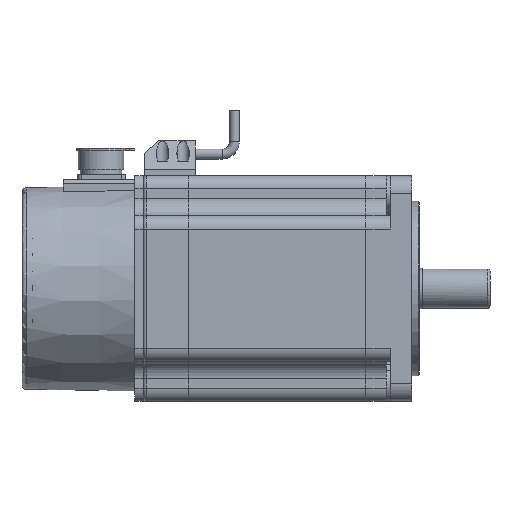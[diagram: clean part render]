
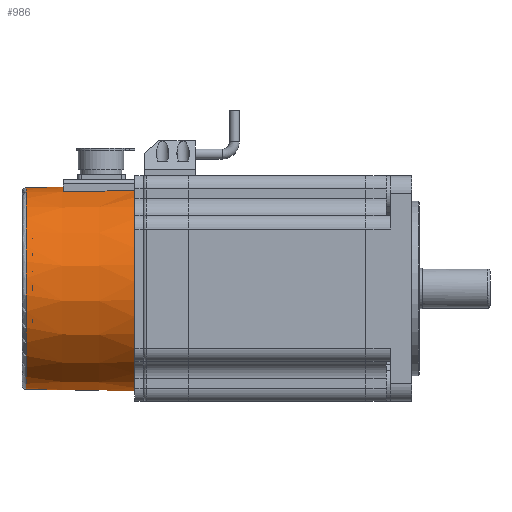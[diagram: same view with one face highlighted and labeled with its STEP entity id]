
A CAD part, left-side view. The second image highlights one B-rep face of the part: STEP entity #986.
In plain terms, the highlighted conical face has half-angle 1 degrees and reference radius 50 mm.
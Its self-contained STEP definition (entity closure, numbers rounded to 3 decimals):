
#56=CONICAL_SURFACE('',#10978,50.,1.);
#360=B_SPLINE_CURVE_WITH_KNOTS('',3,(#16449,#16450,#16451,#16452),
 .UNSPECIFIED.,.F.,.F.,(4,4),(0.,1.),.UNSPECIFIED.);
#361=B_SPLINE_CURVE_WITH_KNOTS('',3,(#16456,#16457,#16458,#16459),
 .UNSPECIFIED.,.F.,.F.,(4,4),(0.,1.),.UNSPECIFIED.);
#584=FACE_BOUND('',#2507,.T.);
#585=FACE_BOUND('',#2508,.T.);
#986=ADVANCED_FACE('',(#584,#585),#56,.T.);
#2507=EDGE_LOOP('',(#6492,#6493,#6494,#6495));
#2508=EDGE_LOOP('',(#6496));
#6492=ORIENTED_EDGE('',*,*,#9538,.F.);
#6493=ORIENTED_EDGE('',*,*,#9539,.F.);
#6494=ORIENTED_EDGE('',*,*,#9540,.F.);
#6495=ORIENTED_EDGE('',*,*,#9284,.F.);
#6496=ORIENTED_EDGE('',*,*,#9541,.T.);
#8123=VERTEX_POINT('',#15680);
#8127=VERTEX_POINT('',#15688);
#8357=VERTEX_POINT('',#16453);
#8358=VERTEX_POINT('',#16455);
#8359=VERTEX_POINT('',#16461);
#9284=EDGE_CURVE('',#8127,#8123,#10297,.T.);
#9538=EDGE_CURVE('',#8357,#8127,#360,.T.);
#9539=EDGE_CURVE('',#8358,#8357,#10318,.T.);
#9540=EDGE_CURVE('',#8123,#8358,#361,.T.);
#9541=EDGE_CURVE('',#8359,#8359,#10319,.T.);
#10297=CIRCLE('',#10923,50.);
#10318=CIRCLE('',#10976,49.389);
#10319=CIRCLE('',#10977,49.074);
#10923=AXIS2_PLACEMENT_3D('',#15689,#12738,#12739);
#10976=AXIS2_PLACEMENT_3D('',#16454,#13072,#13073);
#10977=AXIS2_PLACEMENT_3D('',#16460,#13074,#13075);
#10978=AXIS2_PLACEMENT_3D('',#16462,#13076,#13077);
#12738=DIRECTION('',(0.,-1.,0.));
#12739=DIRECTION('',(0.,0.,-1.));
#13072=DIRECTION('',(0.,-1.,0.));
#13073=DIRECTION('',(0.,0.,1.));
#13074=DIRECTION('',(0.,-1.,0.));
#13075=DIRECTION('',(0.,0.,-1.));
#13076=DIRECTION('',(0.,-1.,0.));
#13077=DIRECTION('',(0.,0.,1.));
#15680=CARTESIAN_POINT('',(-31.108,39.796,-54.553));
#15688=CARTESIAN_POINT('',(-61.108,39.796,-54.553));
#15689=CARTESIAN_POINT('',(-46.108,39.796,-102.25));
#16449=CARTESIAN_POINT('',(-60.497,74.796,-55.003));
#16450=CARTESIAN_POINT('',(-60.701,63.129,-54.853));
#16451=CARTESIAN_POINT('',(-60.904,51.462,-54.702));
#16452=CARTESIAN_POINT('',(-61.108,39.796,-54.553));
#16453=CARTESIAN_POINT('',(-60.497,74.796,-55.003));
#16454=CARTESIAN_POINT('',(-46.108,74.796,-102.25));
#16455=CARTESIAN_POINT('',(-31.719,74.796,-55.003));
#16456=CARTESIAN_POINT('',(-31.108,39.796,-54.553));
#16457=CARTESIAN_POINT('',(-31.312,51.462,-54.702));
#16458=CARTESIAN_POINT('',(-31.515,63.129,-54.853));
#16459=CARTESIAN_POINT('',(-31.719,74.796,-55.003));
#16460=CARTESIAN_POINT('',(-46.108,92.83,-102.25));
#16461=CARTESIAN_POINT('',(-46.108,92.83,-151.324));
#16462=CARTESIAN_POINT('',(-46.108,39.796,-102.25));
